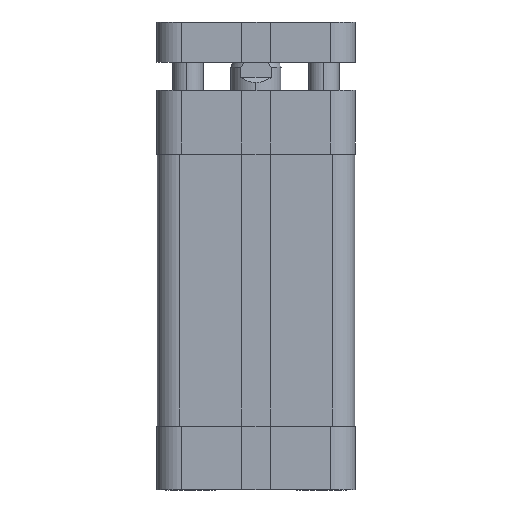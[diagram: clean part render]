
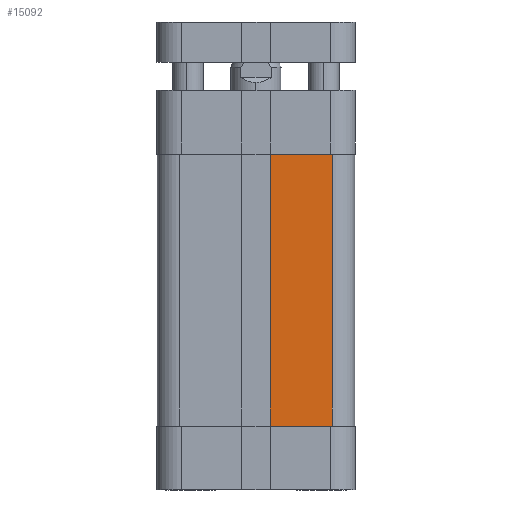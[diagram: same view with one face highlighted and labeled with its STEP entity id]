
A CAD part, left-side view. The second image highlights one B-rep face of the part: STEP entity #15092.
In plain terms, the highlighted planar face has unit normal (-1, 0, 0).
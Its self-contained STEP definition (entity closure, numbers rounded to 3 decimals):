
#689 = EDGE_CURVE ( 'NONE', #13519, #13069, #17880, .T. ) ;
#959 = CARTESIAN_POINT ( 'NONE',  ( -19.625, 19.625, -12.7 ) ) ;
#1046 = DIRECTION ( 'NONE',  ( -1., 0., 0. ) ) ;
#1548 = ORIENTED_EDGE ( 'NONE', *, *, #14493, .T. ) ;
#1549 = ORIENTED_EDGE ( 'NONE', *, *, #11237, .F. ) ;
#2343 = VECTOR ( 'NONE', #19998, 1000. ) ;
#3132 = ORIENTED_EDGE ( 'NONE', *, *, #14333, .T. ) ;
#3156 = LINE ( 'NONE', #17497, #7724 ) ;
#3576 = LINE ( 'NONE', #16316, #23730 ) ;
#5830 = DIRECTION ( 'NONE',  ( 0., 0., -1. ) ) ;
#6347 = CARTESIAN_POINT ( 'NONE',  ( -19.625, -15.125, -12.7 ) ) ;
#7206 = VERTEX_POINT ( 'NONE', #10896 ) ;
#7724 = VECTOR ( 'NONE', #5830, 1000. ) ;
#7886 = AXIS2_PLACEMENT_3D ( 'NONE', #959, #1046, #8743 ) ;
#8193 = CARTESIAN_POINT ( 'NONE',  ( -19.625, 0., -12.7 ) ) ;
#8743 = DIRECTION ( 'NONE',  ( 0., 1., 0. ) ) ;
#10390 = DIRECTION ( 'NONE',  ( 0., 1., 0. ) ) ;
#10896 = CARTESIAN_POINT ( 'NONE',  ( -19.625, -2.8, -66.7 ) ) ;
#11237 = EDGE_CURVE ( 'NONE', #13519, #7206, #3576, .T. ) ;
#12374 = VERTEX_POINT ( 'NONE', #16660 ) ;
#13069 = VERTEX_POINT ( 'NONE', #15286 ) ;
#13498 = LINE ( 'NONE', #8193, #20543 ) ;
#13519 = VERTEX_POINT ( 'NONE', #22602 ) ;
#14333 = EDGE_CURVE ( 'NONE', #12374, #7206, #3156, .T. ) ;
#14493 = EDGE_CURVE ( 'NONE', #13069, #12374, #13498, .T. ) ;
#15092 = ADVANCED_FACE ( 'NONE', ( #16240 ), #22433, .T. ) ;
#15286 = CARTESIAN_POINT ( 'NONE',  ( -19.625, -15.125, -12.7 ) ) ;
#16240 = FACE_OUTER_BOUND ( 'NONE', #22234, .T. ) ;
#16316 = CARTESIAN_POINT ( 'NONE',  ( -19.625, -15.125, -66.7 ) ) ;
#16660 = CARTESIAN_POINT ( 'NONE',  ( -19.625, -2.8, -12.7 ) ) ;
#17497 = CARTESIAN_POINT ( 'NONE',  ( -19.625, -2.8, -12.7 ) ) ;
#17880 = LINE ( 'NONE', #6347, #2343 ) ;
#19998 = DIRECTION ( 'NONE',  ( 0., 0., 1. ) ) ;
#20543 = VECTOR ( 'NONE', #24162, 1000. ) ;
#22234 = EDGE_LOOP ( 'NONE', ( #3132, #1549, #24384, #1548 ) ) ;
#22433 = PLANE ( 'NONE',  #7886 ) ;
#22602 = CARTESIAN_POINT ( 'NONE',  ( -19.625, -15.125, -66.7 ) ) ;
#23730 = VECTOR ( 'NONE', #10390, 1000. ) ;
#24162 = DIRECTION ( 'NONE',  ( 0., 1., 0. ) ) ;
#24384 = ORIENTED_EDGE ( 'NONE', *, *, #689, .T. ) ;
